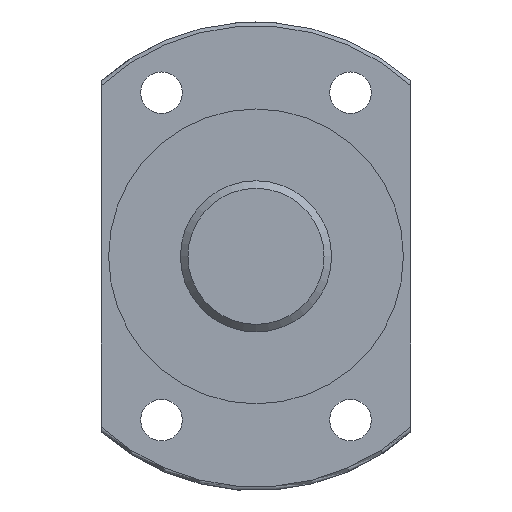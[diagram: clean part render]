
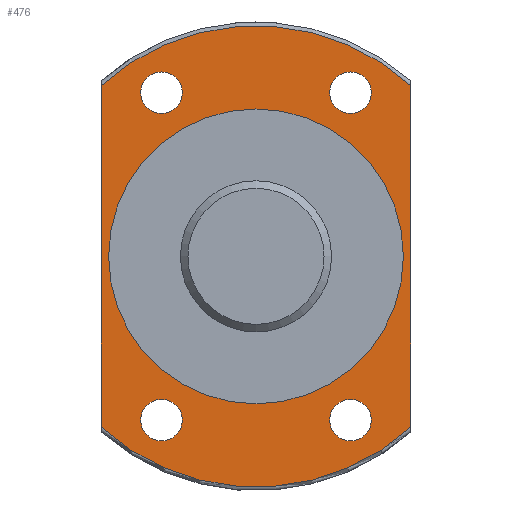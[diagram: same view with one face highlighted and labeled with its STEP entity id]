
A CAD part, left-side view. The second image highlights one B-rep face of the part: STEP entity #476.
In plain terms, the highlighted planar face has unit normal (-1, 0, 0).
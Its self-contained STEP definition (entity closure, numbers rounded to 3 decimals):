
#58=PLANE('',#536);
#75=CIRCLE('',#526,2.75);
#77=CIRCLE('',#529,2.75);
#79=CIRCLE('',#532,2.75);
#81=CIRCLE('',#535,2.75);
#82=CIRCLE('',#537,30.5);
#83=CIRCLE('',#538,30.5);
#84=CIRCLE('',#539,19.5);
#105=LINE('',#781,#113);
#107=LINE('',#803,#115);
#113=VECTOR('',#598,1000.);
#115=VECTOR('',#602,1000.);
#153=ORIENTED_EDGE('',*,*,#253,.F.);
#154=ORIENTED_EDGE('',*,*,#255,.F.);
#155=ORIENTED_EDGE('',*,*,#257,.F.);
#156=ORIENTED_EDGE('',*,*,#259,.F.);
#157=ORIENTED_EDGE('',*,*,#244,.F.);
#158=ORIENTED_EDGE('',*,*,#260,.F.);
#159=ORIENTED_EDGE('',*,*,#249,.T.);
#160=ORIENTED_EDGE('',*,*,#261,.F.);
#161=ORIENTED_EDGE('',*,*,#262,.T.);
#244=EDGE_CURVE('',#298,#299,#105,.T.);
#249=EDGE_CURVE('',#303,#302,#107,.T.);
#253=EDGE_CURVE('',#306,#306,#75,.T.);
#255=EDGE_CURVE('',#308,#308,#77,.T.);
#257=EDGE_CURVE('',#310,#310,#79,.T.);
#259=EDGE_CURVE('',#312,#312,#81,.T.);
#260=EDGE_CURVE('',#303,#298,#82,.T.);
#261=EDGE_CURVE('',#299,#302,#83,.T.);
#262=EDGE_CURVE('',#313,#313,#84,.T.);
#298=VERTEX_POINT('',#780);
#299=VERTEX_POINT('',#782);
#302=VERTEX_POINT('',#802);
#303=VERTEX_POINT('',#804);
#306=VERTEX_POINT('',#816);
#308=VERTEX_POINT('',#821);
#310=VERTEX_POINT('',#826);
#312=VERTEX_POINT('',#831);
#313=VERTEX_POINT('',#836);
#356=EDGE_LOOP('',(#153));
#357=EDGE_LOOP('',(#154));
#358=EDGE_LOOP('',(#155));
#359=EDGE_LOOP('',(#156));
#360=EDGE_LOOP('',(#157,#158,#159,#160));
#361=EDGE_LOOP('',(#161));
#412=FACE_BOUND('',#356,.T.);
#413=FACE_BOUND('',#357,.T.);
#414=FACE_BOUND('',#358,.T.);
#415=FACE_BOUND('',#359,.T.);
#416=FACE_BOUND('',#360,.T.);
#417=FACE_BOUND('',#361,.T.);
#476=ADVANCED_FACE('',(#412,#413,#414,#415,#416,#417),#58,.T.);
#526=AXIS2_PLACEMENT_3D('',#815,#608,#609);
#529=AXIS2_PLACEMENT_3D('',#820,#614,#615);
#532=AXIS2_PLACEMENT_3D('',#825,#620,#621);
#535=AXIS2_PLACEMENT_3D('',#830,#626,#627);
#536=AXIS2_PLACEMENT_3D('',#832,#628,#629);
#537=AXIS2_PLACEMENT_3D('',#833,#630,#631);
#538=AXIS2_PLACEMENT_3D('',#834,#632,#633);
#539=AXIS2_PLACEMENT_3D('',#835,#634,#635);
#598=DIRECTION('',(0.,0.,1.));
#602=DIRECTION('',(0.,0.,1.));
#608=DIRECTION('',(-1.,0.,0.));
#609=DIRECTION('',(0.,-1.,0.));
#614=DIRECTION('',(-1.,0.,0.));
#615=DIRECTION('',(0.,-1.,0.));
#620=DIRECTION('',(-1.,0.,0.));
#621=DIRECTION('',(0.,-1.,0.));
#626=DIRECTION('',(-1.,0.,0.));
#627=DIRECTION('',(0.,-1.,0.));
#628=DIRECTION('',(-1.,0.,0.));
#629=DIRECTION('',(0.,-1.,0.));
#630=DIRECTION('',(1.,0.,0.));
#631=DIRECTION('',(0.,1.,0.));
#632=DIRECTION('',(1.,0.,0.));
#633=DIRECTION('',(0.,1.,0.));
#634=DIRECTION('',(1.,0.,0.));
#635=DIRECTION('',(0.,-1.,0.));
#780=CARTESIAN_POINT('',(193.099,126.226,-22.583));
#781=CARTESIAN_POINT('',(193.099,126.226,0.));
#782=CARTESIAN_POINT('',(193.099,126.226,22.583));
#802=CARTESIAN_POINT('',(193.099,85.226,22.583));
#803=CARTESIAN_POINT('',(193.099,85.226,0.));
#804=CARTESIAN_POINT('',(193.099,85.226,-22.583));
#815=CARTESIAN_POINT('',(193.099,118.226,-21.65));
#816=CARTESIAN_POINT('',(193.099,115.476,-21.65));
#820=CARTESIAN_POINT('',(193.099,93.226,-21.65));
#821=CARTESIAN_POINT('',(193.099,90.476,-21.65));
#825=CARTESIAN_POINT('',(193.099,93.226,21.65));
#826=CARTESIAN_POINT('',(193.099,90.476,21.65));
#830=CARTESIAN_POINT('',(193.099,118.226,21.65));
#831=CARTESIAN_POINT('',(193.099,115.476,21.65));
#832=CARTESIAN_POINT('',(193.099,136.226,0.));
#833=CARTESIAN_POINT('',(193.099,105.726,0.));
#834=CARTESIAN_POINT('',(193.099,105.726,0.));
#835=CARTESIAN_POINT('',(193.099,105.726,0.));
#836=CARTESIAN_POINT('',(193.099,86.226,0.));
